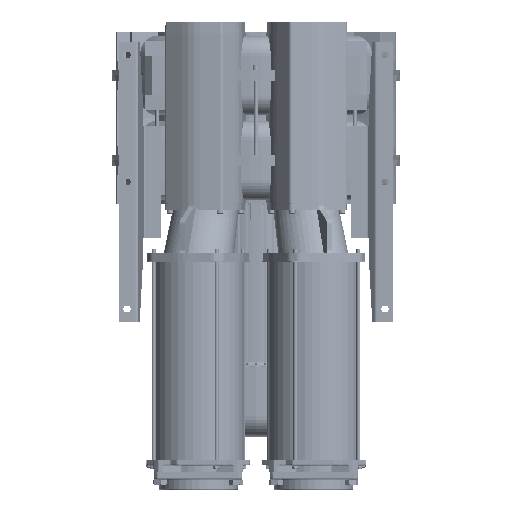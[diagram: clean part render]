
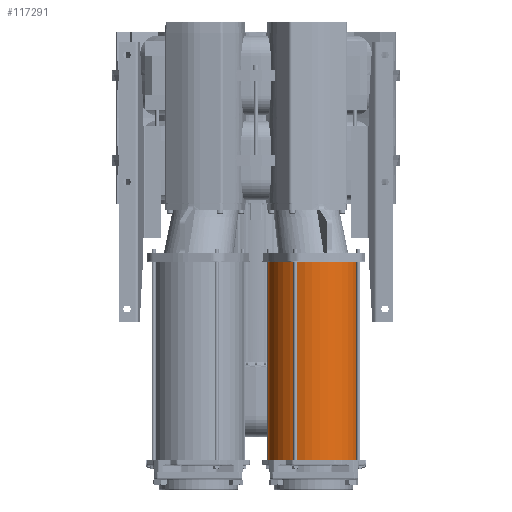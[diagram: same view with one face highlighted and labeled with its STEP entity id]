
A CAD part, front view. The second image highlights one B-rep face of the part: STEP entity #117291.
In plain terms, the highlighted cylindrical face has radius 90 mm (diameter 180 mm), a full revolution.
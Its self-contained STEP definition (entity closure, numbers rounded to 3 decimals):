
#804 = FACE_OUTER_BOUND ( 'NONE', #39597, .T. ) ;
#7614 = DIRECTION ( 'NONE',  ( 0.665, 0.747, 0. ) ) ;
#10732 = ORIENTED_EDGE ( 'NONE', *, *, #187557, .T. ) ;
#15460 = DIRECTION ( 'NONE',  ( -0.665, -0.747, 0. ) ) ;
#16567 = DIRECTION ( 'NONE',  ( 0.665, 0.747, 0. ) ) ;
#20783 = CIRCLE ( 'NONE', #173816, 90. ) ;
#39434 = CIRCLE ( 'NONE', #76991, 90. ) ;
#39597 = EDGE_LOOP ( 'NONE', ( #10732 ) ) ;
#42989 = CARTESIAN_POINT ( 'NONE',  ( 173.658, -207.494, -347. ) ) ;
#43821 = FACE_OUTER_BOUND ( 'NONE', #83619, .T. ) ;
#51616 = CARTESIAN_POINT ( 'NONE',  ( 113.777, -274.681, 42. ) ) ;
#73151 = CARTESIAN_POINT ( 'NONE',  ( 113.777, -274.681, -347.5 ) ) ;
#76991 = AXIS2_PLACEMENT_3D ( 'NONE', #91843, #105561, #16567 ) ;
#83619 = EDGE_LOOP ( 'NONE', ( #186771 ) ) ;
#84555 = VERTEX_POINT ( 'NONE', #189161 ) ;
#88917 = VERTEX_POINT ( 'NONE', #42989 ) ;
#91843 = CARTESIAN_POINT ( 'NONE',  ( 113.777, -274.681, -347. ) ) ;
#98469 = DIRECTION ( 'NONE',  ( 0., 0., -1. ) ) ;
#103474 = CYLINDRICAL_SURFACE ( 'NONE', #113125, 90. ) ;
#105561 = DIRECTION ( 'NONE',  ( 0., 0., 1. ) ) ;
#113125 = AXIS2_PLACEMENT_3D ( 'NONE', #73151, #175813, #15460 ) ;
#117291 = ADVANCED_FACE ( 'NONE', ( #43821, #804 ), #103474, .T. ) ;
#165145 = EDGE_CURVE ( 'NONE', #84555, #84555, #20783, .T. ) ;
#173816 = AXIS2_PLACEMENT_3D ( 'NONE', #51616, #98469, #7614 ) ;
#175813 = DIRECTION ( 'NONE',  ( 0., 0., 1. ) ) ;
#186771 = ORIENTED_EDGE ( 'NONE', *, *, #165145, .T. ) ;
#187557 = EDGE_CURVE ( 'NONE', #88917, #88917, #39434, .T. ) ;
#189161 = CARTESIAN_POINT ( 'NONE',  ( 173.658, -207.494, 42. ) ) ;
